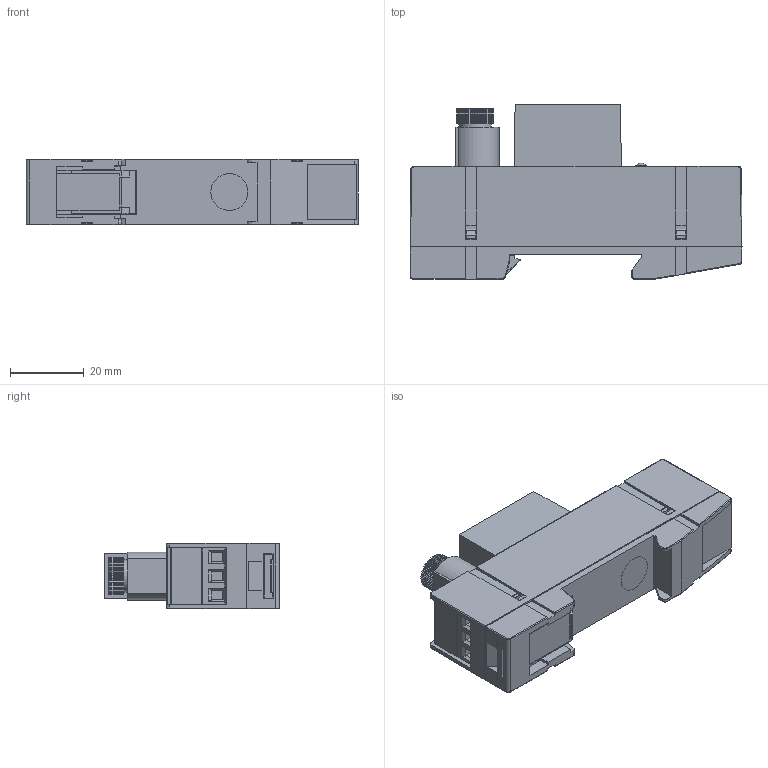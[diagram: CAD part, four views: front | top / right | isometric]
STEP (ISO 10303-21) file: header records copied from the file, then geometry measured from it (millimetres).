
FILE_DESCRIPTION(/* description */ (''),/* implementation_level */ '2;1');
FILE_NAME(/* name */ 'Multi_IO_Extension_Switch_590.stp',/* time_stamp */ '2025-10-29T11:32:11+01:00',/* author */ (''),/* organization */ (''),/* preprocessor_version */ 'ST-DEVELOPER v17.2',/* originating_system */ 'Autodesk Inventor 2019',/* authorisation */ '');
FILE_SCHEMA (('AUTOMOTIVE_DESIGN { 1 0 10303 214 3 1 1 }'));
Length unit declared in the file: millimetre
Products named in the file (1): Multi_IO_Extension_Switch_590
Bounding box: 89.8 x 47.22 x 17.83 mm (x, y, z)
Volume: 48406.1 mm3; surface area: 13829.1 mm2
Topology: 1 solids, 4 shells, 743 faces, 2066 edges, 1360 vertices
Faces by surface type: plane 628, cylinder 95, torus 17, cone 2, sphere 1
Full cylindrical faces by diameter (mm): 1.8 x1, 3 x1, 4 x3, 4.1 x4, 7.35 x1, 8.7 x1, 10 x1
Entity records: 24266 total; most frequent: CARTESIAN_POINT 4179, ORIENTED_EDGE 4132, DIRECTION 3787, EDGE_CURVE 2066, LINE 1831, VECTOR 1831, VERTEX_POINT 1360, AXIS2_PLACEMENT_3D 978
